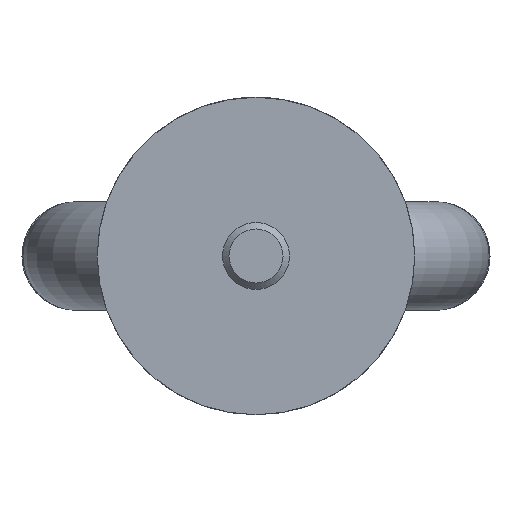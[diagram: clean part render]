
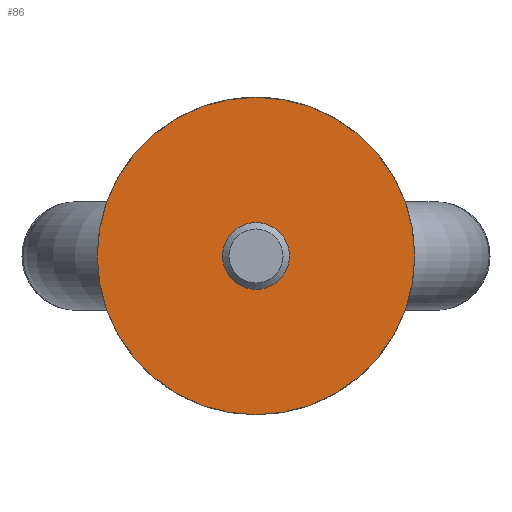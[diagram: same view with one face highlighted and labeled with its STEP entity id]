
A CAD part, front view. The second image highlights one B-rep face of the part: STEP entity #86.
In plain terms, the highlighted planar face has unit normal (0, -1, 0).
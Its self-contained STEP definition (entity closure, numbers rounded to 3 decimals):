
#86 = ADVANCED_FACE( '', ( #132, #133 ), #134, .F. );
#132 = FACE_BOUND( '', #200, .T. );
#133 = FACE_OUTER_BOUND( '', #201, .T. );
#134 = PLANE( '', #202 );
#200 = EDGE_LOOP( '', ( #307 ) );
#201 = EDGE_LOOP( '', ( #308 ) );
#202 = AXIS2_PLACEMENT_3D( '', #309, #310, #311 );
#307 = ORIENTED_EDGE( '', *, *, #413, .T. );
#308 = ORIENTED_EDGE( '', *, *, #427, .T. );
#309 = CARTESIAN_POINT( '', ( 19., 0., 0. ) );
#310 = DIRECTION( '', ( 0., 1., 0. ) );
#311 = DIRECTION( '', ( 0., 0., 1. ) );
#413 = EDGE_CURVE( '', #471, #471, #472, .T. );
#427 = EDGE_CURVE( '', #496, #496, #497, .T. );
#471 = VERTEX_POINT( '', #887 );
#472 = CIRCLE( '', #888, 4. );
#496 = VERTEX_POINT( '', #926 );
#497 = CIRCLE( '', #927, 19. );
#887 = CARTESIAN_POINT( '', ( 0., 0., 4. ) );
#888 = AXIS2_PLACEMENT_3D( '', #1021, #1022, #1023 );
#926 = CARTESIAN_POINT( '', ( 0., 0., -19. ) );
#927 = AXIS2_PLACEMENT_3D( '', #1044, #1045, #1046 );
#1021 = CARTESIAN_POINT( '', ( 0., 0., 0. ) );
#1022 = DIRECTION( '', ( 0., 1., 0. ) );
#1023 = DIRECTION( '', ( 0., 0., 1. ) );
#1044 = CARTESIAN_POINT( '', ( 0., 0., 0. ) );
#1045 = DIRECTION( '', ( 0., -1., 0. ) );
#1046 = DIRECTION( '', ( 0., 0., -1. ) );
